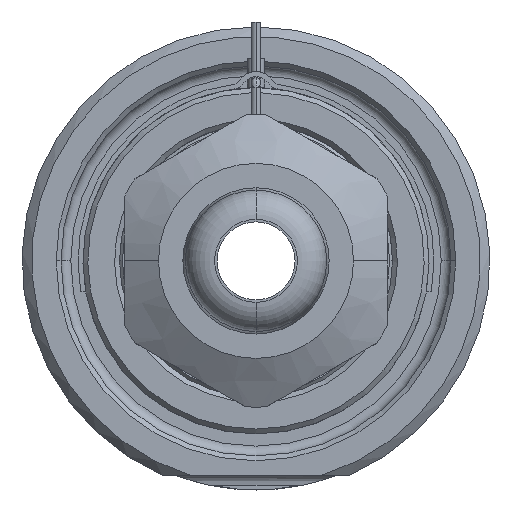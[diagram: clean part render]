
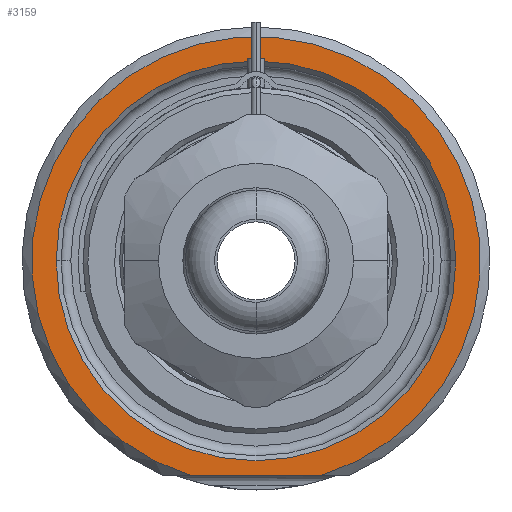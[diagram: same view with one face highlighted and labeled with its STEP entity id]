
A CAD part, front view. The second image highlights one B-rep face of the part: STEP entity #3159.
In plain terms, the highlighted planar face has unit normal (0, -1, 0).
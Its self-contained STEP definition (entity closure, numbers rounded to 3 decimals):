
#1=DIRECTION('',(1.,0.,0.));
#2=VECTOR('',#1,13.416);
#3=CARTESIAN_POINT('',(-6.708,0.,-22.));
#4=LINE('',#3,#2);
#5=CARTESIAN_POINT('',(0.,0.,0.));
#6=DIRECTION('',(0.,1.,0.));
#7=DIRECTION('',(-1.,0.,0.));
#8=AXIS2_PLACEMENT_3D('',#5,#6,#7);
#10=CARTESIAN_POINT('',(0.,0.,0.));
#11=DIRECTION('',(0.,1.,0.));
#12=DIRECTION('',(1.,0.,0.));
#13=AXIS2_PLACEMENT_3D('',#10,#11,#12);
#121=CARTESIAN_POINT('',(0.,0.,0.));
#122=DIRECTION('',(0.,-1.,0.));
#123=DIRECTION('',(0.292,0.,-0.957));
#124=AXIS2_PLACEMENT_3D('',#121,#122,#123);
#2630=CARTESIAN_POINT('',(-20.5,0.,0.));
#2631=CARTESIAN_POINT('',(20.5,0.,0.));
#2632=VERTEX_POINT('',#2630);
#2633=VERTEX_POINT('',#2631);
#2670=CARTESIAN_POINT('',(-6.708,0.,-22.));
#2671=CARTESIAN_POINT('',(6.708,0.,-22.));
#2672=VERTEX_POINT('',#2670);
#2673=VERTEX_POINT('',#2671);
#3142=CARTESIAN_POINT('',(0.,0.,0.));
#3143=DIRECTION('',(0.,-1.,0.));
#3144=DIRECTION('',(1.,0.,0.));
#3145=AXIS2_PLACEMENT_3D('',#3142,#3143,#3144);
#3146=PLANE('',#3145);
#3148=ORIENTED_EDGE('',*,*,#3147,.F.);
#3150=ORIENTED_EDGE('',*,*,#3149,.F.);
#3151=EDGE_LOOP('',(#3148,#3150));
#3152=FACE_OUTER_BOUND('',#3151,.F.);
#3154=ORIENTED_EDGE('',*,*,#3153,.F.);
#3156=ORIENTED_EDGE('',*,*,#3155,.F.);
#3157=EDGE_LOOP('',(#3154,#3156));
#3158=FACE_BOUND('',#3157,.F.);
#3159=ADVANCED_FACE('',(#3152,#3158),#3146,.T.);
#9=CIRCLE('',#8,20.5);
#14=CIRCLE('',#13,20.5);
#125=CIRCLE('',#124,23.);
#3147=EDGE_CURVE('',#2672,#2673,#4,.T.);
#3149=EDGE_CURVE('',#2673,#2672,#125,.T.);
#3153=EDGE_CURVE('',#2632,#2633,#9,.T.);
#3155=EDGE_CURVE('',#2633,#2632,#14,.T.);
